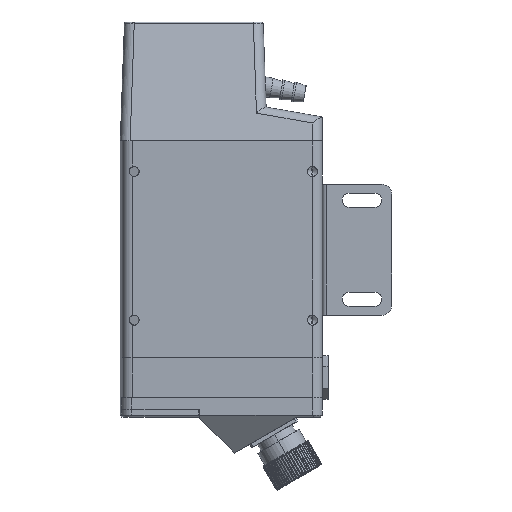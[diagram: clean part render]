
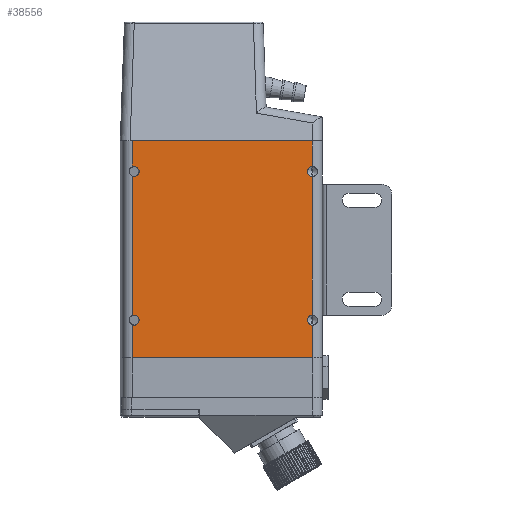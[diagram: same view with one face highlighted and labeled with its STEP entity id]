
A CAD part, left-side view. The second image highlights one B-rep face of the part: STEP entity #38556.
In plain terms, the highlighted planar face has unit normal (-1, 0, 0) as drawn and (1, 0, 0) by its records, which use the part's own axes.
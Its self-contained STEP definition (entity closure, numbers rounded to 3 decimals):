
#1609 = EDGE_CURVE ( 'NONE', #41214, #8455, #23492, .T. ) ;
#1615 = EDGE_CURVE ( 'NONE', #41139, #8534, #26309, .T. ) ;
#1619 = EDGE_CURVE ( 'NONE', #41163, #9011, #23510, .T. ) ;
#6314 = CARTESIAN_POINT ( 'NONE',  ( 30., 44.5, 90.5 ) ) ;
#6315 = DIRECTION ( 'NONE',  ( 1., 0., 0. ) ) ;
#6316 = DIRECTION ( 'NONE',  ( 0., 0., -1. ) ) ;
#6333 = CARTESIAN_POINT ( 'NONE',  ( 30., 44.5, 15.5 ) ) ;
#6334 = DIRECTION ( 'NONE',  ( 1., 0., 0. ) ) ;
#6335 = DIRECTION ( 'NONE',  ( 0., 0., -1. ) ) ;
#6350 = CARTESIAN_POINT ( 'NONE',  ( 30., 44.5, 90.5 ) ) ;
#6351 = DIRECTION ( 'NONE',  ( 1., 0., 0. ) ) ;
#6352 = DIRECTION ( 'NONE',  ( 0., 0., -1. ) ) ;
#6384 = CARTESIAN_POINT ( 'NONE',  ( 30., 44.5, 15.5 ) ) ;
#6385 = DIRECTION ( 'NONE',  ( 1., 0., 0. ) ) ;
#6386 = DIRECTION ( 'NONE',  ( 0., 0., -1. ) ) ;
#6397 = LINE ( 'NONE', #6398, #23621 ) ;
#6398 = CARTESIAN_POINT ( 'NONE',  ( 30., 45.5, 109.5 ) ) ;
#6399 = DIRECTION ( 'NONE',  ( 0., 0., 1. ) ) ;
#7122 = ORIENTED_EDGE ( 'NONE', *, *, #21666, .F. ) ;
#7123 = ORIENTED_EDGE ( 'NONE', *, *, #21676, .T. ) ;
#7124 = ORIENTED_EDGE ( 'NONE', *, *, #21656, .F. ) ;
#7126 = ORIENTED_EDGE ( 'NONE', *, *, #22170, .T. ) ;
#7128 = ORIENTED_EDGE ( 'NONE', *, *, #22171, .F. ) ;
#7131 = ORIENTED_EDGE ( 'NONE', *, *, #1615, .T. ) ;
#7132 = ORIENTED_EDGE ( 'NONE', *, *, #22155, .T. ) ;
#7133 = ORIENTED_EDGE ( 'NONE', *, *, #22139, .F. ) ;
#7134 = ORIENTED_EDGE ( 'NONE', *, *, #21661, .F. ) ;
#7136 = ORIENTED_EDGE ( 'NONE', *, *, #1619, .F. ) ;
#7244 = ORIENTED_EDGE ( 'NONE', *, *, #1609, .F. ) ;
#8455 = VERTEX_POINT ( 'NONE', #26587 ) ;
#8475 = VERTEX_POINT ( 'NONE', #26622 ) ;
#8534 = VERTEX_POINT ( 'NONE', #26727 ) ;
#8571 = VERTEX_POINT ( 'NONE', #26792 ) ;
#8920 = VERTEX_POINT ( 'NONE', #27362 ) ;
#8921 = VERTEX_POINT ( 'NONE', #27363 ) ;
#9011 = VERTEX_POINT ( 'NONE', #27453 ) ;
#9019 = VERTEX_POINT ( 'NONE', #27461 ) ;
#9388 = EDGE_LOOP ( 'NONE', ( #7123, #7122, #7136, #7124, #7131, #7133, #7132, #7128, #7126, #21469, #21467, #21468, #21515, #7244, #7134, #21516 ) ) ;
#10429 = VECTOR ( 'NONE', #34180, 1000. ) ;
#10436 = VECTOR ( 'NONE', #34202, 1000. ) ;
#10441 = CIRCLE ( 'NONE', #10444, 2.5 ) ;
#10444 = AXIS2_PLACEMENT_3D ( 'NONE', #34199, #34200, #34201 ) ;
#10445 = VECTOR ( 'NONE', #34205, 1000. ) ;
#10446 = VECTOR ( 'NONE', #34208, 1000. ) ;
#10447 = CIRCLE ( 'NONE', #10448, 2.5 ) ;
#10448 = AXIS2_PLACEMENT_3D ( 'NONE', #34209, #34210, #34211 ) ;
#21467 = ORIENTED_EDGE ( 'NONE', *, *, #22169, .T. ) ;
#21468 = ORIENTED_EDGE ( 'NONE', *, *, #22168, .T. ) ;
#21469 = ORIENTED_EDGE ( 'NONE', *, *, #22167, .F. ) ;
#21515 = ORIENTED_EDGE ( 'NONE', *, *, #22160, .T. ) ;
#21516 = ORIENTED_EDGE ( 'NONE', *, *, #21671, .F. ) ;
#21656 = EDGE_CURVE ( 'NONE', #41139, #41163, #23580, .T. ) ;
#21661 = EDGE_CURVE ( 'NONE', #8920, #41214, #23584, .T. ) ;
#21666 = EDGE_CURVE ( 'NONE', #9011, #8475, #23597, .T. ) ;
#21671 = EDGE_CURVE ( 'NONE', #8571, #8920, #23606, .T. ) ;
#21676 = EDGE_CURVE ( 'NONE', #8571, #8475, #6397, .T. ) ;
#22139 = EDGE_CURVE ( 'NONE', #9019, #8534, #34114, .T. ) ;
#22155 = EDGE_CURVE ( 'NONE', #9019, #41118, #34162, .T. ) ;
#22160 = EDGE_CURVE ( 'NONE', #41242, #8455, #34170, .T. ) ;
#22167 = EDGE_CURVE ( 'NONE', #41120, #8921, #10441, .T. ) ;
#22168 = EDGE_CURVE ( 'NONE', #41099, #41242, #34198, .T. ) ;
#22169 = EDGE_CURVE ( 'NONE', #41120, #41099, #34203, .T. ) ;
#22170 = EDGE_CURVE ( 'NONE', #41175, #8921, #34206, .T. ) ;
#22171 = EDGE_CURVE ( 'NONE', #41175, #41118, #10447, .T. ) ;
#23492 = CIRCLE ( 'NONE', #23498, 2.5 ) ;
#23498 = AXIS2_PLACEMENT_3D ( 'NONE', #26296, #26298, #26300 ) ;
#23503 = VECTOR ( 'NONE', #26375, 1000. ) ;
#23510 = CIRCLE ( 'NONE', #23515, 2.5 ) ;
#23515 = AXIS2_PLACEMENT_3D ( 'NONE', #26402, #26403, #26405 ) ;
#23579 = AXIS2_PLACEMENT_3D ( 'NONE', #6314, #6315, #6316 ) ;
#23580 = CIRCLE ( 'NONE', #23579, 2.5 ) ;
#23584 = CIRCLE ( 'NONE', #23588, 2.5 ) ;
#23588 = AXIS2_PLACEMENT_3D ( 'NONE', #6333, #6334, #6335 ) ;
#23597 = CIRCLE ( 'NONE', #23601, 2.5 ) ;
#23601 = AXIS2_PLACEMENT_3D ( 'NONE', #6350, #6351, #6352 ) ;
#23606 = CIRCLE ( 'NONE', #23610, 2.5 ) ;
#23610 = AXIS2_PLACEMENT_3D ( 'NONE', #6384, #6385, #6386 ) ;
#23621 = VECTOR ( 'NONE', #6399, 1000. ) ;
#24682 = VECTOR ( 'NONE', #34116, 1000. ) ;
#26296 = CARTESIAN_POINT ( 'NONE',  ( 30., 44.5, 15.5 ) ) ;
#26298 = DIRECTION ( 'NONE',  ( 1., 0., 0. ) ) ;
#26300 = DIRECTION ( 'NONE',  ( 0., 0., -1. ) ) ;
#26309 = LINE ( 'NONE', #26370, #23503 ) ;
#26370 = CARTESIAN_POINT ( 'NONE',  ( 30., 45.5, 109.5 ) ) ;
#26375 = DIRECTION ( 'NONE',  ( 0., 0., 1. ) ) ;
#26402 = CARTESIAN_POINT ( 'NONE',  ( 30., 44.5, 90.5 ) ) ;
#26403 = DIRECTION ( 'NONE',  ( 1., 0., 0. ) ) ;
#26405 = DIRECTION ( 'NONE',  ( 0., 0., -1. ) ) ;
#26587 = CARTESIAN_POINT ( 'NONE',  ( 30., 45.5, 13.209 ) ) ;
#26622 = CARTESIAN_POINT ( 'NONE',  ( 30., 45.5, 88.209 ) ) ;
#26727 = CARTESIAN_POINT ( 'NONE',  ( 30., 45.5, 109.5 ) ) ;
#26792 = CARTESIAN_POINT ( 'NONE',  ( 30., 45.5, 17.791 ) ) ;
#27362 = CARTESIAN_POINT ( 'NONE',  ( 30., 44.5, 18. ) ) ;
#27363 = CARTESIAN_POINT ( 'NONE',  ( 30., -45.5, 18. ) ) ;
#27453 = CARTESIAN_POINT ( 'NONE',  ( 30., 44.5, 88. ) ) ;
#27461 = CARTESIAN_POINT ( 'NONE',  ( 30., -45.5, 109.5 ) ) ;
#29986 = VECTOR ( 'NONE', #34164, 1000. ) ;
#31621 = AXIS2_PLACEMENT_3D ( 'NONE', #37008, #37010, #37011 ) ;
#34114 = LINE ( 'NONE', #34115, #24682 ) ;
#34115 = CARTESIAN_POINT ( 'NONE',  ( 30., 50.5, 109.5 ) ) ;
#34116 = DIRECTION ( 'NONE',  ( 0., 1., 0. ) ) ;
#34162 = LINE ( 'NONE', #34163, #29986 ) ;
#34163 = CARTESIAN_POINT ( 'NONE',  ( 30., -45.5, 109.5 ) ) ;
#34164 = DIRECTION ( 'NONE',  ( 0., 0., -1. ) ) ;
#34170 = LINE ( 'NONE', #34171, #10429 ) ;
#34171 = CARTESIAN_POINT ( 'NONE',  ( 30., 45.5, 109.5 ) ) ;
#34180 = DIRECTION ( 'NONE',  ( 0., 0., 1. ) ) ;
#34194 = CARTESIAN_POINT ( 'NONE',  ( 30., 50.5, 0. ) ) ;
#34198 = LINE ( 'NONE', #34194, #10436 ) ;
#34199 = CARTESIAN_POINT ( 'NONE',  ( 30., -45.5, 15.5 ) ) ;
#34200 = DIRECTION ( 'NONE',  ( 1., 0., 0. ) ) ;
#34201 = DIRECTION ( 'NONE',  ( 0., 0., -1. ) ) ;
#34202 = DIRECTION ( 'NONE',  ( 0., 1., 0. ) ) ;
#34203 = LINE ( 'NONE', #34204, #10445 ) ;
#34204 = CARTESIAN_POINT ( 'NONE',  ( 30., -45.5, 109.5 ) ) ;
#34205 = DIRECTION ( 'NONE',  ( 0., 0., -1. ) ) ;
#34206 = LINE ( 'NONE', #34207, #10446 ) ;
#34207 = CARTESIAN_POINT ( 'NONE',  ( 30., -45.5, 109.5 ) ) ;
#34208 = DIRECTION ( 'NONE',  ( 0., 0., -1. ) ) ;
#34209 = CARTESIAN_POINT ( 'NONE',  ( 30., -45.5, 90.5 ) ) ;
#34210 = DIRECTION ( 'NONE',  ( 1., 0., 0. ) ) ;
#34211 = DIRECTION ( 'NONE',  ( 0., 0., -1. ) ) ;
#36982 = FACE_OUTER_BOUND ( 'NONE', #9388, .T. ) ;
#36985 = PLANE ( 'NONE',  #31621 ) ;
#37008 = CARTESIAN_POINT ( 'NONE',  ( 30., 50.5, 109.5 ) ) ;
#37010 = DIRECTION ( 'NONE',  ( -1., 0., 0. ) ) ;
#37011 = DIRECTION ( 'NONE',  ( 0., -1., 0. ) ) ;
#37522 = CARTESIAN_POINT ( 'NONE',  ( 30., -45.5, 0. ) ) ;
#37563 = CARTESIAN_POINT ( 'NONE',  ( 30., -45.5, 93. ) ) ;
#37569 = CARTESIAN_POINT ( 'NONE',  ( 30., -45.5, 13. ) ) ;
#37617 = CARTESIAN_POINT ( 'NONE',  ( 30., 45.5, 92.791 ) ) ;
#37675 = CARTESIAN_POINT ( 'NONE',  ( 30., 44.5, 93. ) ) ;
#37704 = CARTESIAN_POINT ( 'NONE',  ( 30., -45.5, 88. ) ) ;
#37796 = CARTESIAN_POINT ( 'NONE',  ( 30., 44.5, 13. ) ) ;
#37863 = CARTESIAN_POINT ( 'NONE',  ( 30., 45.5, 0. ) ) ;
#38556 = ADVANCED_FACE ( 'NONE', ( #36982 ), #36985, .F. ) ;
#41099 = VERTEX_POINT ( 'NONE', #37522 ) ;
#41118 = VERTEX_POINT ( 'NONE', #37563 ) ;
#41120 = VERTEX_POINT ( 'NONE', #37569 ) ;
#41139 = VERTEX_POINT ( 'NONE', #37617 ) ;
#41163 = VERTEX_POINT ( 'NONE', #37675 ) ;
#41175 = VERTEX_POINT ( 'NONE', #37704 ) ;
#41214 = VERTEX_POINT ( 'NONE', #37796 ) ;
#41242 = VERTEX_POINT ( 'NONE', #37863 ) ;
